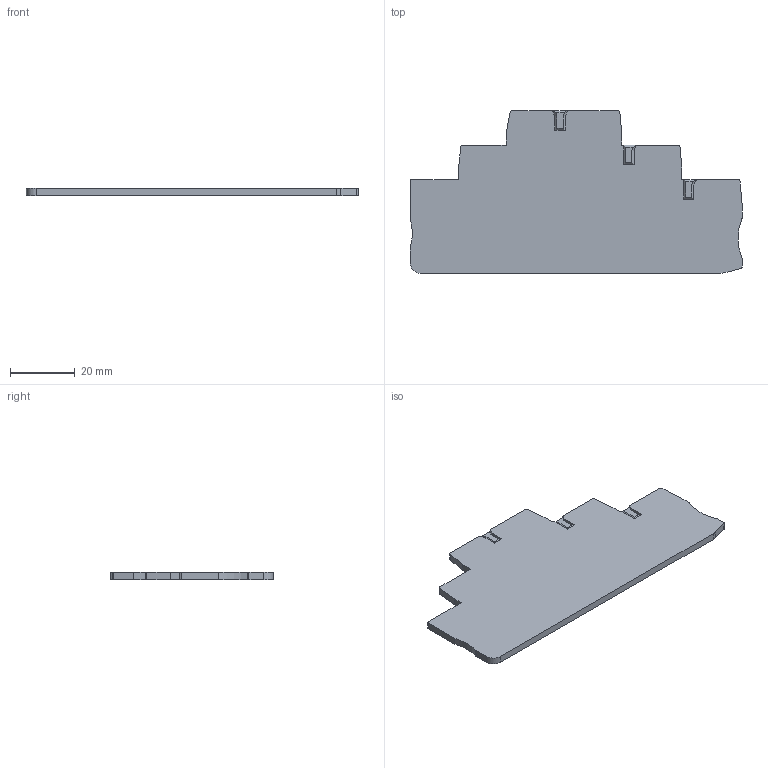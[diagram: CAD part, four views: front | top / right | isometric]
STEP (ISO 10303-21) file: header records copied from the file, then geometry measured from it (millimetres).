
FILE_DESCRIPTION( ('This file contains a STEP AP42 implementation' ,'as created by ZW3D STEP Interface translator.') ,'2;1' );
FILE_NAME( 'D-RPV2.5-3L傷啣耀倰.stp' ,'23 4 6.161516', (''), ('ZWCAD Software Co.'), 'Version 1.0', 'ZW3D to STEP translator', '' );
FILE_SCHEMA(('AUTOMOTIVE_DESIGN { 1 0 10303 214 1 1 1 1 }'));
Length unit declared in the file: millimetre
Products named in the file (2): 0; RPV2.5-3L蜊1.sldasm-Part-2-1
Bounding box: 102.24 x 50 x 2.2 mm (x, y, z)
Volume: 8767.2 mm3; surface area: 8776.9 mm2
Topology: 1 solids, 1 shells, 120 faces, 342 edges, 224 vertices
Faces by surface type: plane 94, cylinder 25, bspline 1
Entity records: 4042 total; most frequent: CARTESIAN_POINT 726, ORIENTED_EDGE 684, DIRECTION 630, EDGE_CURVE 342, VECTOR 290, LINE 290, VERTEX_POINT 224, AXIS2_PLACEMENT_3D 170
